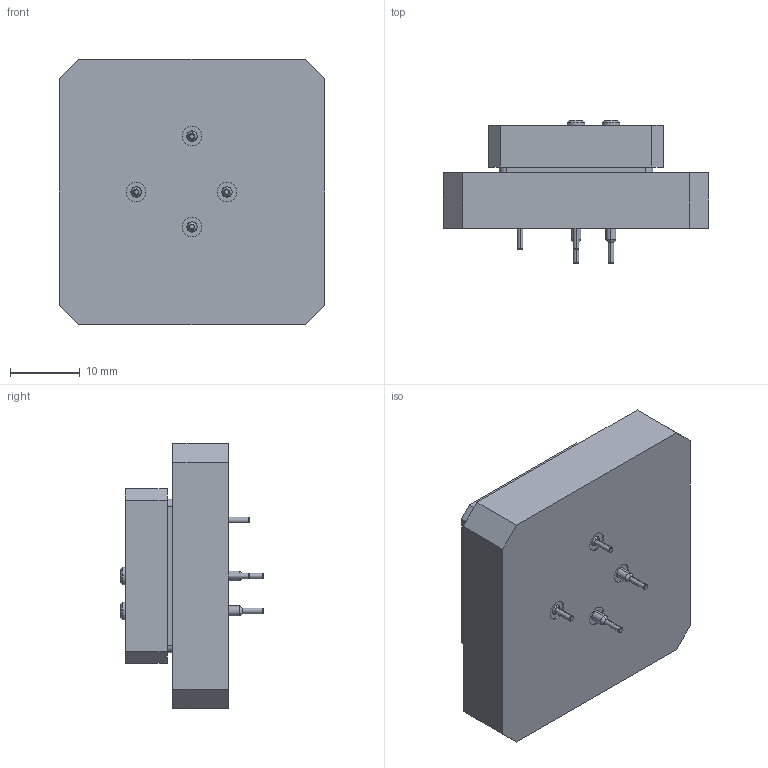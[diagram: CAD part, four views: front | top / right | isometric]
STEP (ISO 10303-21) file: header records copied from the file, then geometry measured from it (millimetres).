
FILE_DESCRIPTION((''),'2;1');
FILE_NAME('9003384-ME_FIT','2025-07-30T16:39:11',('gfichot'),(''),'CREO PARAMETRIC BY PTC INC, 2023072','CREO PARAMETRIC BY PTC INC, 2023072','');
FILE_SCHEMA(('CONFIG_CONTROL_DESIGN'));
Length unit declared in the file: millimetre
Products named in the file (1): 9003384-ME_FIT
Bounding box: 38 x 20.5 x 38 mm (x, y, z)
Volume: 15521 mm3; surface area: 5494 mm2
Topology: 1 solids, 3 shells, 377 faces, 985 edges, 657 vertices
Faces by surface type: extrusion 154, plane 137, cylinder 62, cone 24
Entity records: 13505 total; most frequent: CARTESIAN_POINT 4625, ORIENTED_EDGE 1970, DIRECTION 1432, EDGE_CURVE 985, VECTOR 674, VERTEX_POINT 657, LINE 520, B_SPLINE_CURVE_WITH_KNOTS 463
